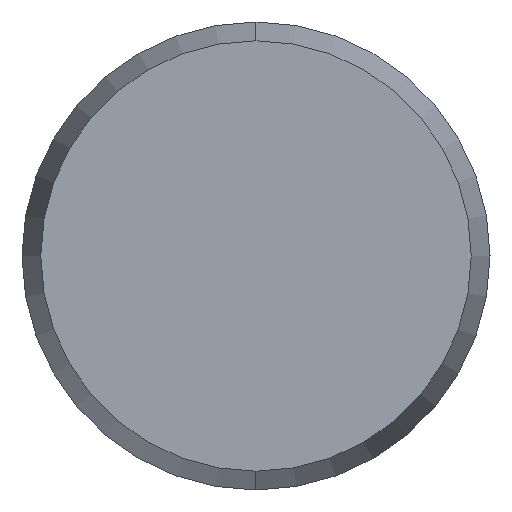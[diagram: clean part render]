
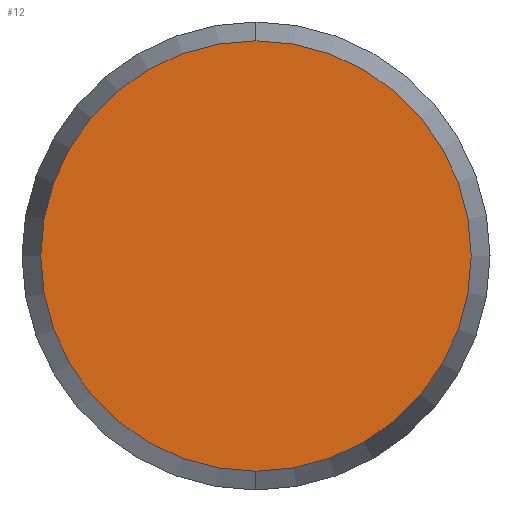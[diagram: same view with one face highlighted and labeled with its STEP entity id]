
A CAD part, left-side view. The second image highlights one B-rep face of the part: STEP entity #12.
In plain terms, the highlighted planar face has unit normal (-1, 0, 0).
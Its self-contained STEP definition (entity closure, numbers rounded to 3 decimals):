
#1 = ORIENTED_EDGE ( 'NONE', *, *, #170, .F. ) ;
#3 = EDGE_CURVE ( 'NONE', #172, #171, #106, .T. ) ;
#8 = EDGE_LOOP ( 'NONE', ( #1, #21 ) ) ;
#12 = ADVANCED_FACE ( 'NONE', ( #92 ), #88, .F. ) ;
#21 = ORIENTED_EDGE ( 'NONE', *, *, #3, .F. ) ;
#84 = DIRECTION ( 'NONE',  ( 0., 0., -1. ) ) ;
#85 = DIRECTION ( 'NONE',  ( 1., 0., 0. ) ) ;
#86 = CARTESIAN_POINT ( 'NONE',  ( -16., 0., 0. ) ) ;
#87 = AXIS2_PLACEMENT_3D ( 'NONE', #86, #85, #84 ) ;
#88 = PLANE ( 'NONE',  #87 ) ;
#92 = FACE_OUTER_BOUND ( 'NONE', #8, .T. ) ;
#102 = DIRECTION ( 'NONE',  ( 0., 0., -1. ) ) ;
#103 = DIRECTION ( 'NONE',  ( 1., 0., 0. ) ) ;
#104 = CARTESIAN_POINT ( 'NONE',  ( -16., 0., 0. ) ) ;
#105 = AXIS2_PLACEMENT_3D ( 'NONE', #104, #103, #102 ) ;
#106 = CIRCLE ( 'NONE', #105, 3.678 ) ;
#113 = CARTESIAN_POINT ( 'NONE',  ( -16., 0., -3.678 ) ) ;
#114 = CARTESIAN_POINT ( 'NONE',  ( -16., 0., 3.678 ) ) ;
#115 = DIRECTION ( 'NONE',  ( 0., 0., -1. ) ) ;
#116 = DIRECTION ( 'NONE',  ( 1., 0., 0. ) ) ;
#117 = CARTESIAN_POINT ( 'NONE',  ( -16., 0., 0. ) ) ;
#118 = AXIS2_PLACEMENT_3D ( 'NONE', #117, #116, #115 ) ;
#124 = CIRCLE ( 'NONE', #118, 3.678 ) ;
#170 = EDGE_CURVE ( 'NONE', #171, #172, #124, .T. ) ;
#171 = VERTEX_POINT ( 'NONE', #114 ) ;
#172 = VERTEX_POINT ( 'NONE', #113 ) ;
